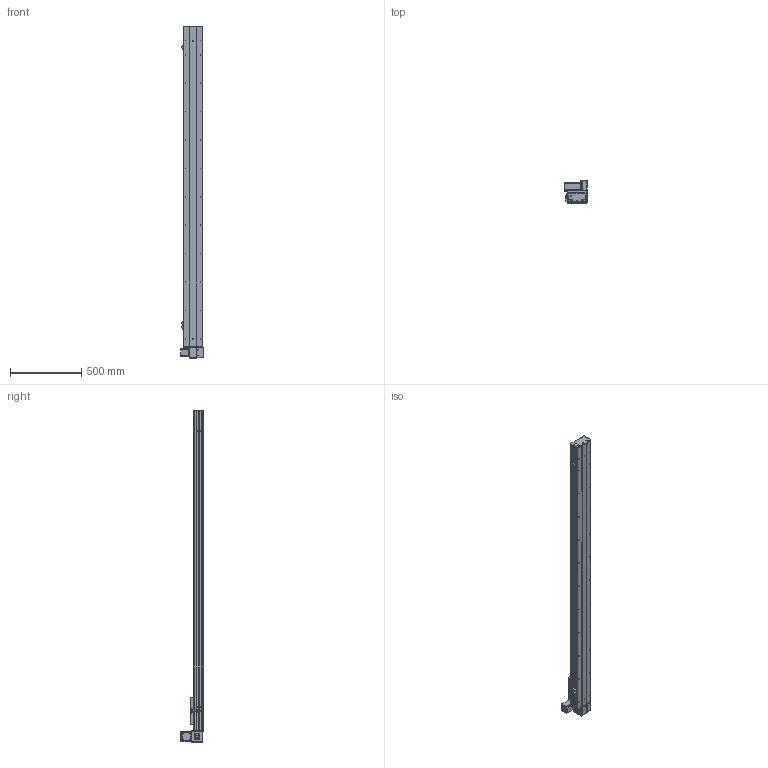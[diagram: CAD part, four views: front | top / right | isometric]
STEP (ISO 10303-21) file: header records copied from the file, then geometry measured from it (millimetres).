
FILE_DESCRIPTION (( 'STEP AP203' ), '1' );
FILE_NAME ('Y135CB-D90-S1950-UL-P400W.STEP', '2020-02-18T07:49:02', ( '微软用户' ), ( '微软中国' ), 'SwSTEP 2.0', 'SolidWorks 2017', '' );
FILE_SCHEMA (( 'CONFIG_CONTROL_DESIGN' ));
Length unit declared in the file: millimetre
Products named in the file (18): Y10B-耜蚾蟀諉啣----; san松下电机400不带刹车----; 00B-俋欶BM--; 5CB --掛极耜裔啣-; Y10B--々湍喘謫眊--666; C-詩湍揤踡え-陔; Y135CB-耜裔; Y135CB-D90-S1950-UL-P400W; 135CB--詩湍-CE; 135CB---遴掛极.-; Y100-135俋离換覜ん--; 35CB---喘謫眊楊擘啣; Y135C-陔俋离換覜結え-; 0B-埴倛裔啣; 5C--俋欶; 0B-源倛裔啣; C-雄赽釱--; 0B-萇儂楊擘啣
Assembly tree (21 placements, depth 2):
  Y135CB-D90-S1950-UL-P400W
    Y135CB-耜裔
    135CB---遴掛极.-
    35CB---喘謫眊楊擘啣
    0B-埴倛裔啣
    0B-源倛裔啣
    0B-萇儂楊擘啣
    san松下电机400不带刹车----
    5CB --掛极耜裔啣-  x2
    C-詩湍揤踡え-陔  x2
    135CB--詩湍-CE
    Y100-135俋离換覜ん--  x3
    Y135C-陔俋离換覜結え-
    5C--俋欶
    C-雄赽釱--
    Y10B-耜蚾蟀諉啣----
    00B-俋欶BM--
    Y10B--々湍喘謫眊--666
Bounding box: 157 x 158.7 x 2338 mm (x, y, z)
Volume: 6853461.4 mm3; surface area: 2706642 mm2
Topology: 21 solids, 21 shells, 965 faces, 2617 edges, 1734 vertices
Faces by surface type: cylinder 493, plane 456, cone 16
Entity records: 30359 total; most frequent: DIRECTION 5045, CARTESIAN_POINT 5032, ORIENTED_EDGE 4710, EDGE_CURVE 2355, AXIS2_PLACEMENT_3D 1847, VERTEX_POINT 1562, LINE 1351, VECTOR 1351
